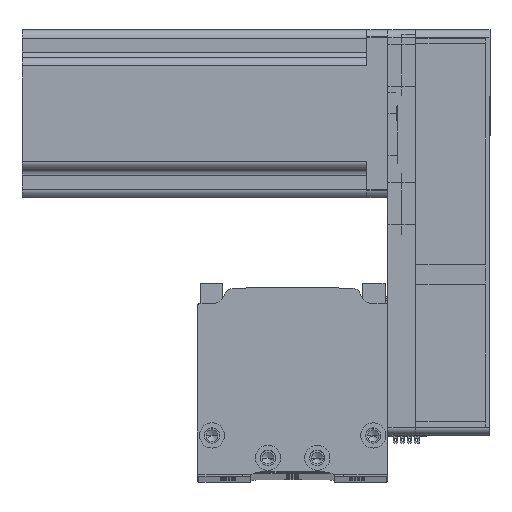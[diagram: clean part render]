
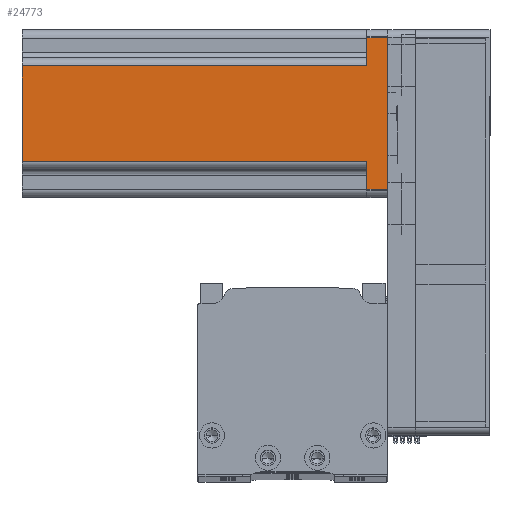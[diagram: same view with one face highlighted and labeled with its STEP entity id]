
A CAD part, top view. The second image highlights one B-rep face of the part: STEP entity #24773.
In plain terms, the highlighted planar face has unit normal (0, 0, 1) as drawn and (0, -1, 0) by its records, which use the part's own axes.
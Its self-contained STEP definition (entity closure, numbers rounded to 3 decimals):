
#298 = DIRECTION ( 'NONE',  ( -1., 0., 0. ) ) ;
#689 = CARTESIAN_POINT ( 'NONE',  ( -17., -30., 7.5 ) ) ;
#1828 = CARTESIAN_POINT ( 'NONE',  ( 27., -30., 130.7 ) ) ;
#2088 = CARTESIAN_POINT ( 'NONE',  ( 17., -30., 130.7 ) ) ;
#3560 = CARTESIAN_POINT ( 'NONE',  ( -27., -30., 130.7 ) ) ;
#4097 = CARTESIAN_POINT ( 'NONE',  ( 30., -30., 130.7 ) ) ;
#4401 = ORIENTED_EDGE ( 'NONE', *, *, #37883, .F. ) ;
#6545 = ORIENTED_EDGE ( 'NONE', *, *, #56199, .T. ) ;
#6644 = DIRECTION ( 'NONE',  ( 0., 0., 1. ) ) ;
#7419 = ORIENTED_EDGE ( 'NONE', *, *, #8429, .F. ) ;
#8291 = DIRECTION ( 'NONE',  ( 0., 0., -1. ) ) ;
#8429 = EDGE_CURVE ( 'NONE', #57004, #53687, #17037, .T. ) ;
#8457 = VECTOR ( 'NONE', #8291, 1000. ) ;
#8644 = DIRECTION ( 'NONE',  ( -1., 0., 0. ) ) ;
#9361 = VERTEX_POINT ( 'NONE', #18700 ) ;
#9384 = LINE ( 'NONE', #35531, #19900 ) ;
#9882 = VERTEX_POINT ( 'NONE', #49923 ) ;
#10605 = EDGE_CURVE ( 'NONE', #34882, #53687, #37319, .T. ) ;
#16108 = DIRECTION ( 'NONE',  ( 1., 0., 0. ) ) ;
#16705 = VECTOR ( 'NONE', #56216, 1000. ) ;
#17037 = LINE ( 'NONE', #50610, #28799 ) ;
#17786 = VECTOR ( 'NONE', #16108, 1000. ) ;
#18700 = CARTESIAN_POINT ( 'NONE',  ( -27., -30., 7.5 ) ) ;
#19900 = VECTOR ( 'NONE', #298, 1000. ) ;
#20395 = LINE ( 'NONE', #1828, #54051 ) ;
#20405 = LINE ( 'NONE', #3560, #8457 ) ;
#20630 = CARTESIAN_POINT ( 'NONE',  ( -20., -30., 7.5 ) ) ;
#21707 = VECTOR ( 'NONE', #25050, 1000. ) ;
#22953 = CARTESIAN_POINT ( 'NONE',  ( 17., -30., 7.5 ) ) ;
#23119 = LINE ( 'NONE', #20630, #21707 ) ;
#24769 = CARTESIAN_POINT ( 'NONE',  ( -17., -30., 130.7 ) ) ;
#24773 = ADVANCED_FACE ( 'NONE', ( #46362 ), #43828, .F. ) ;
#25050 = DIRECTION ( 'NONE',  ( 1., 0., 0. ) ) ;
#25635 = VECTOR ( 'NONE', #6644, 1000. ) ;
#25823 = EDGE_LOOP ( 'NONE', ( #7419, #36240, #4401, #46468, #52965, #6545, #31377, #57533 ) ) ;
#27050 = EDGE_CURVE ( 'NONE', #9361, #44792, #20405, .T. ) ;
#27105 = LINE ( 'NONE', #47192, #16705 ) ;
#28778 = DIRECTION ( 'NONE',  ( 1., 0., 0. ) ) ;
#28799 = VECTOR ( 'NONE', #28778, 1000. ) ;
#28960 = AXIS2_PLACEMENT_3D ( 'NONE', #4097, #35181, #8644 ) ;
#29334 = EDGE_CURVE ( 'NONE', #57004, #52815, #27105, .T. ) ;
#30545 = EDGE_CURVE ( 'NONE', #38157, #34882, #9384, .T. ) ;
#31377 = ORIENTED_EDGE ( 'NONE', *, *, #30545, .T. ) ;
#32994 = DIRECTION ( 'NONE',  ( 0., 0., 1. ) ) ;
#33791 = CARTESIAN_POINT ( 'NONE',  ( 30., -30., 0. ) ) ;
#34882 = VERTEX_POINT ( 'NONE', #22953 ) ;
#35181 = DIRECTION ( 'NONE',  ( 0., 1., 0. ) ) ;
#35531 = CARTESIAN_POINT ( 'NONE',  ( 20., -30., 7.5 ) ) ;
#36240 = ORIENTED_EDGE ( 'NONE', *, *, #29334, .T. ) ;
#37319 = LINE ( 'NONE', #2088, #25635 ) ;
#37883 = EDGE_CURVE ( 'NONE', #9361, #52815, #23119, .T. ) ;
#38157 = VERTEX_POINT ( 'NONE', #48994 ) ;
#43828 = PLANE ( 'NONE',  #28960 ) ;
#44792 = VERTEX_POINT ( 'NONE', #46427 ) ;
#45976 = EDGE_CURVE ( 'NONE', #44792, #9882, #51447, .T. ) ;
#46362 = FACE_OUTER_BOUND ( 'NONE', #25823, .T. ) ;
#46427 = CARTESIAN_POINT ( 'NONE',  ( -27., -30., 0. ) ) ;
#46468 = ORIENTED_EDGE ( 'NONE', *, *, #27050, .T. ) ;
#47192 = CARTESIAN_POINT ( 'NONE',  ( -17., -30., 130.7 ) ) ;
#48242 = CARTESIAN_POINT ( 'NONE',  ( 17., -30., 130.7 ) ) ;
#48994 = CARTESIAN_POINT ( 'NONE',  ( 27., -30., 7.5 ) ) ;
#49923 = CARTESIAN_POINT ( 'NONE',  ( 27., -30., 0. ) ) ;
#50610 = CARTESIAN_POINT ( 'NONE',  ( 30., -30., 130.7 ) ) ;
#51447 = LINE ( 'NONE', #33791, #17786 ) ;
#52815 = VERTEX_POINT ( 'NONE', #689 ) ;
#52965 = ORIENTED_EDGE ( 'NONE', *, *, #45976, .T. ) ;
#53687 = VERTEX_POINT ( 'NONE', #48242 ) ;
#54051 = VECTOR ( 'NONE', #32994, 1000. ) ;
#56199 = EDGE_CURVE ( 'NONE', #9882, #38157, #20395, .T. ) ;
#56216 = DIRECTION ( 'NONE',  ( 0., 0., -1. ) ) ;
#57004 = VERTEX_POINT ( 'NONE', #24769 ) ;
#57533 = ORIENTED_EDGE ( 'NONE', *, *, #10605, .T. ) ;
